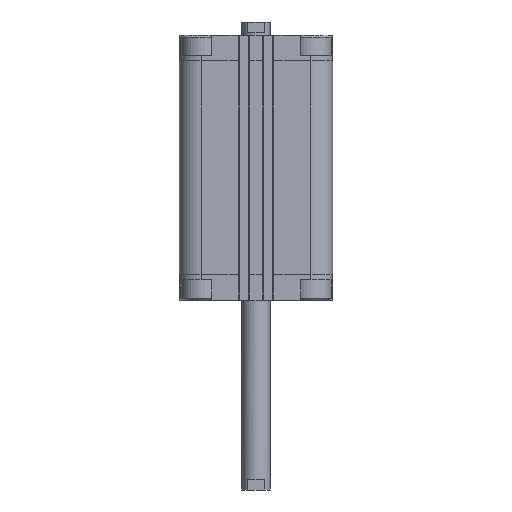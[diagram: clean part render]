
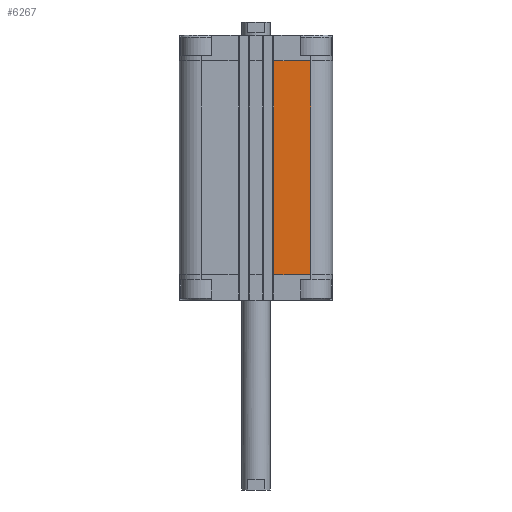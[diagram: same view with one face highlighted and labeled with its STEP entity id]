
A CAD part, front view. The second image highlights one B-rep face of the part: STEP entity #6267.
In plain terms, the highlighted planar face has unit normal (0, -1, 0).
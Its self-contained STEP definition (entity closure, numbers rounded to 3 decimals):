
#21 = EDGE_CURVE ( 'NONE', #11468, #1296, #3256, .T. ) ;
#1005 = VECTOR ( 'NONE', #2904, 1000. ) ;
#1216 = VECTOR ( 'NONE', #10794, 1000. ) ;
#1296 = VERTEX_POINT ( 'NONE', #12070 ) ;
#1604 = LINE ( 'NONE', #13408, #1005 ) ;
#1755 = CARTESIAN_POINT ( 'NONE',  ( 31., -43.5, -14.5 ) ) ;
#2904 = DIRECTION ( 'NONE',  ( 1., 0., 0. ) ) ;
#3256 = LINE ( 'NONE', #8009, #1216 ) ;
#3285 = ORIENTED_EDGE ( 'NONE', *, *, #17651, .T. ) ;
#3386 = AXIS2_PLACEMENT_3D ( 'NONE', #3918, #10090, #17295 ) ;
#3430 = EDGE_CURVE ( 'NONE', #11468, #14940, #10261, .T. ) ;
#3766 = ORIENTED_EDGE ( 'NONE', *, *, #13632, .F. ) ;
#3918 = CARTESIAN_POINT ( 'NONE',  ( 10.05, -43.5, -135.5 ) ) ;
#4310 = VERTEX_POINT ( 'NONE', #1755 ) ;
#5206 = FACE_OUTER_BOUND ( 'NONE', #5342, .T. ) ;
#5342 = EDGE_LOOP ( 'NONE', ( #3766, #19170, #11853, #3285 ) ) ;
#6267 = ADVANCED_FACE ( 'NONE', ( #5206 ), #12737, .T. ) ;
#6892 = CARTESIAN_POINT ( 'NONE',  ( 10.05, -43.5, -135.5 ) ) ;
#8009 = CARTESIAN_POINT ( 'NONE',  ( 10.05, -43.5, -135.5 ) ) ;
#8782 = DIRECTION ( 'NONE',  ( 1., 0., 0. ) ) ;
#9246 = LINE ( 'NONE', #18734, #9365 ) ;
#9365 = VECTOR ( 'NONE', #12501, 1000. ) ;
#10090 = DIRECTION ( 'NONE',  ( 0., -1., 0. ) ) ;
#10261 = LINE ( 'NONE', #16282, #11251 ) ;
#10794 = DIRECTION ( 'NONE',  ( 0., 0., 1. ) ) ;
#11251 = VECTOR ( 'NONE', #8782, 1000. ) ;
#11468 = VERTEX_POINT ( 'NONE', #6892 ) ;
#11853 = ORIENTED_EDGE ( 'NONE', *, *, #3430, .T. ) ;
#12070 = CARTESIAN_POINT ( 'NONE',  ( 10.05, -43.5, -14.5 ) ) ;
#12501 = DIRECTION ( 'NONE',  ( 0., 0., 1. ) ) ;
#12737 = PLANE ( 'NONE',  #3386 ) ;
#13408 = CARTESIAN_POINT ( 'NONE',  ( 10.05, -43.5, -14.5 ) ) ;
#13632 = EDGE_CURVE ( 'NONE', #1296, #4310, #1604, .T. ) ;
#14940 = VERTEX_POINT ( 'NONE', #19584 ) ;
#16282 = CARTESIAN_POINT ( 'NONE',  ( 10.05, -43.5, -135.5 ) ) ;
#17295 = DIRECTION ( 'NONE',  ( -1., 0., 0. ) ) ;
#17651 = EDGE_CURVE ( 'NONE', #14940, #4310, #9246, .T. ) ;
#18734 = CARTESIAN_POINT ( 'NONE',  ( 31., -43.5, -135.5 ) ) ;
#19170 = ORIENTED_EDGE ( 'NONE', *, *, #21, .F. ) ;
#19584 = CARTESIAN_POINT ( 'NONE',  ( 31., -43.5, -135.5 ) ) ;
